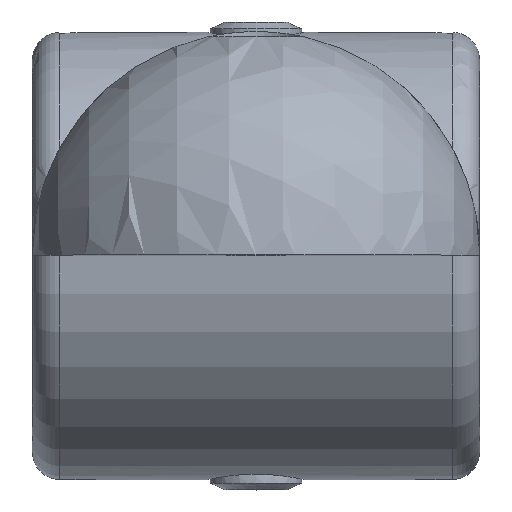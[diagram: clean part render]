
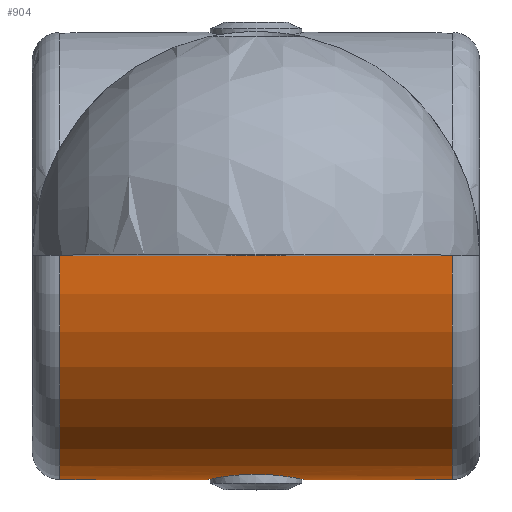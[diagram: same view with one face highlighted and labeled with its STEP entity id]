
A CAD part, top view. The second image highlights one B-rep face of the part: STEP entity #904.
In plain terms, the highlighted cylindrical face has radius 32.5 mm (diameter 65 mm), a partial arc.
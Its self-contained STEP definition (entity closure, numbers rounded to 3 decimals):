
#63=FACE_BOUND('',#198,.T.);
#115=B_SPLINE_CURVE_WITH_KNOTS('',3,(#1683,#1684,#1685,#1686,#1687,#1688,
#1689,#1690,#1691,#1692,#1693,#1694,#1695,#1696,#1697,#1698,#1699,#1700),
 .UNSPECIFIED.,.F.,.F.,(4,2,2,2,2,2,2,2,4),(1.058,1.323,
1.587,1.852,2.117,2.381,2.646,
2.91,3.175),.UNSPECIFIED.);
#116=B_SPLINE_CURVE_WITH_KNOTS('',3,(#1701,#1702,#1703,#1704,#1705,#1706,
#1707,#1708,#1709,#1710,#1711,#1712,#1713,#1714,#1715,#1716,#1717,#1718,
#1719),.UNSPECIFIED.,.F.,.F.,(4,2,2,2,3,2,2,2,4),(3.175,3.439,
3.704,3.969,4.233,4.498,4.762,
5.027,5.291),.UNSPECIFIED.);
#137=FACE_OUTER_BOUND('',#197,.T.);
#197=EDGE_LOOP('',(#722,#723,#724,#725));
#198=EDGE_LOOP('',(#726,#727));
#254=LINE('',#1735,#318);
#255=LINE('',#1738,#319);
#318=VECTOR('',#1268,10.);
#319=VECTOR('',#1271,10.);
#389=CIRCLE('',#1092,32.5);
#390=CIRCLE('',#1094,32.5);
#443=VERTEX_POINT('',#1681);
#444=VERTEX_POINT('',#1682);
#446=VERTEX_POINT('',#1725);
#449=VERTEX_POINT('',#1730);
#450=VERTEX_POINT('',#1734);
#451=VERTEX_POINT('',#1736);
#542=EDGE_CURVE('',#443,#444,#115,.T.);
#543=EDGE_CURVE('',#444,#443,#116,.T.);
#549=EDGE_CURVE('',#449,#446,#389,.T.);
#550=EDGE_CURVE('',#449,#450,#254,.T.);
#551=EDGE_CURVE('',#451,#450,#390,.T.);
#552=EDGE_CURVE('',#446,#451,#255,.T.);
#722=ORIENTED_EDGE('',*,*,#549,.F.);
#723=ORIENTED_EDGE('',*,*,#550,.T.);
#724=ORIENTED_EDGE('',*,*,#551,.F.);
#725=ORIENTED_EDGE('',*,*,#552,.F.);
#726=ORIENTED_EDGE('',*,*,#542,.T.);
#727=ORIENTED_EDGE('',*,*,#543,.T.);
#879=CYLINDRICAL_SURFACE('',#1093,32.5);
#904=ADVANCED_FACE('',(#137,#63),#879,.T.);
#1092=AXIS2_PLACEMENT_3D('',#1732,#1264,#1265);
#1093=AXIS2_PLACEMENT_3D('',#1733,#1266,#1267);
#1094=AXIS2_PLACEMENT_3D('',#1737,#1269,#1270);
#1264=DIRECTION('center_axis',(-1.,0.,0.));
#1265=DIRECTION('ref_axis',(0.,1.,0.));
#1266=DIRECTION('center_axis',(1.,0.,0.));
#1267=DIRECTION('ref_axis',(0.,0.,-1.));
#1268=DIRECTION('',(1.,0.,0.));
#1269=DIRECTION('center_axis',(1.,0.,0.));
#1270=DIRECTION('ref_axis',(0.,1.,0.));
#1271=DIRECTION('',(1.,0.,0.));
#1681=CARTESIAN_POINT('',(7.,32.5,0.));
#1682=CARTESIAN_POINT('',(-7.,32.5,0.));
#1683=CARTESIAN_POINT('Ctrl Pts',(7.,32.5,0.));
#1684=CARTESIAN_POINT('Ctrl Pts',(7.,32.5,0.882));
#1685=CARTESIAN_POINT('Ctrl Pts',(6.823,32.46,1.821));
#1686=CARTESIAN_POINT('Ctrl Pts',(6.108,32.318,3.545));
#1687=CARTESIAN_POINT('Ctrl Pts',(5.57,32.216,4.33));
#1688=CARTESIAN_POINT('Ctrl Pts',(4.33,32.025,5.57));
#1689=CARTESIAN_POINT('Ctrl Pts',(3.545,31.923,6.108));
#1690=CARTESIAN_POINT('Ctrl Pts',(1.821,31.778,6.823));
#1691=CARTESIAN_POINT('Ctrl Pts',(0.882,31.737,7.));
#1692=CARTESIAN_POINT('Ctrl Pts',(-0.882,31.737,7.));
#1693=CARTESIAN_POINT('Ctrl Pts',(-1.821,31.778,6.823));
#1694=CARTESIAN_POINT('Ctrl Pts',(-3.545,31.923,6.108));
#1695=CARTESIAN_POINT('Ctrl Pts',(-4.33,32.025,5.57));
#1696=CARTESIAN_POINT('Ctrl Pts',(-5.57,32.216,4.33));
#1697=CARTESIAN_POINT('Ctrl Pts',(-6.108,32.318,3.545));
#1698=CARTESIAN_POINT('Ctrl Pts',(-6.823,32.46,1.821));
#1699=CARTESIAN_POINT('Ctrl Pts',(-7.,32.5,0.882));
#1700=CARTESIAN_POINT('Ctrl Pts',(-7.,32.5,0.));
#1701=CARTESIAN_POINT('Ctrl Pts',(-7.,32.5,0.));
#1702=CARTESIAN_POINT('Ctrl Pts',(-7.,32.5,-0.882));
#1703=CARTESIAN_POINT('Ctrl Pts',(-6.823,32.46,-1.821));
#1704=CARTESIAN_POINT('Ctrl Pts',(-6.108,32.318,-3.545));
#1705=CARTESIAN_POINT('Ctrl Pts',(-5.57,32.216,-4.33));
#1706=CARTESIAN_POINT('Ctrl Pts',(-4.33,32.025,-5.57));
#1707=CARTESIAN_POINT('Ctrl Pts',(-3.545,31.923,-6.108));
#1708=CARTESIAN_POINT('Ctrl Pts',(-1.821,31.778,-6.823));
#1709=CARTESIAN_POINT('Ctrl Pts',(-0.882,31.737,-7.));
#1710=CARTESIAN_POINT('Ctrl Pts',(0.,31.737,-7.));
#1711=CARTESIAN_POINT('Ctrl Pts',(0.882,31.737,-7.));
#1712=CARTESIAN_POINT('Ctrl Pts',(1.821,31.778,-6.823));
#1713=CARTESIAN_POINT('Ctrl Pts',(3.545,31.923,-6.108));
#1714=CARTESIAN_POINT('Ctrl Pts',(4.33,32.025,-5.57));
#1715=CARTESIAN_POINT('Ctrl Pts',(5.57,32.216,-4.33));
#1716=CARTESIAN_POINT('Ctrl Pts',(6.108,32.318,-3.545));
#1717=CARTESIAN_POINT('Ctrl Pts',(6.823,32.46,-1.821));
#1718=CARTESIAN_POINT('Ctrl Pts',(7.,32.5,-0.882));
#1719=CARTESIAN_POINT('Ctrl Pts',(7.,32.5,0.));
#1725=CARTESIAN_POINT('',(-28.5,0.,-32.5));
#1730=CARTESIAN_POINT('',(-28.5,0.,32.5));
#1732=CARTESIAN_POINT('Origin',(-28.5,0.,0.));
#1733=CARTESIAN_POINT('Origin',(0.,0.,0.));
#1734=CARTESIAN_POINT('',(28.5,0.,32.5));
#1735=CARTESIAN_POINT('',(0.,0.,32.5));
#1736=CARTESIAN_POINT('',(28.5,0.,-32.5));
#1737=CARTESIAN_POINT('Origin',(28.5,0.,0.));
#1738=CARTESIAN_POINT('',(0.,0.,-32.5));
